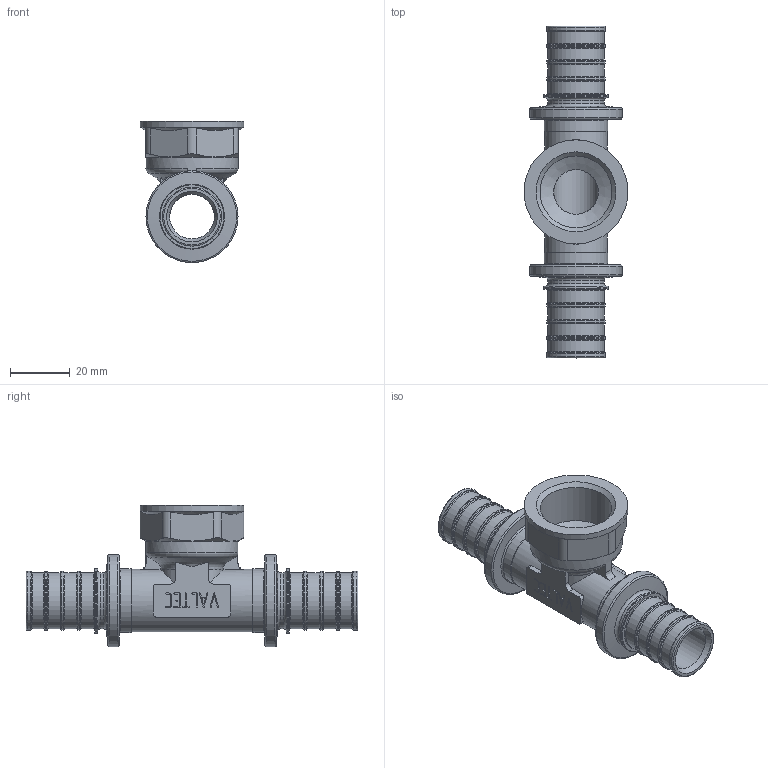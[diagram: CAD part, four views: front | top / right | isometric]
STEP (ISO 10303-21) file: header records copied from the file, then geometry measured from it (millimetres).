
FILE_DESCRIPTION(('STEP AP203'), '1');
FILE_NAME('ÂÐ.752249.019 - VTm.432.G.250525 Ôèò. òðîé. ñ ïåð', '', ('UNSPECIFIED'), ('UNSPECIFIED'), 'C3D Converter', 'C3D Toolkit', '');
FILE_SCHEMA(('CONFIG_CONTROL_DESIGN'));
Length unit declared in the file: millimetre
Products named in the file (1): ВР.752249.019
Bounding box: 34.9 x 111.4 x 47.45 mm (x, y, z)
Volume: 27046.7 mm3; surface area: 19409.3 mm2
Topology: 1 solids, 1 shells, 400 faces, 1054 edges, 675 vertices
Faces by surface type: extrusion 142, plane 129, torus 54, cylinder 52, cone 17, bspline 6
Full cylindrical faces by diameter (mm): 15 x2, 18.8 x10, 19.8 x8, 21 x1, 21.4 x2, 21.8 x2, 24.118 x1, 30.9 x2, 31 x1, 34.9 x1
Entity records: 17924 total; most frequent: CARTESIAN_POINT 5837, ORIENTED_EDGE 1934, DIRECTION 1366, EDGE_CURVE 967, VERTEX_POINT 675, VECTOR 592, B_SPLINE_CURVE_WITH_KNOTS 518, EDGE_LOOP 510
